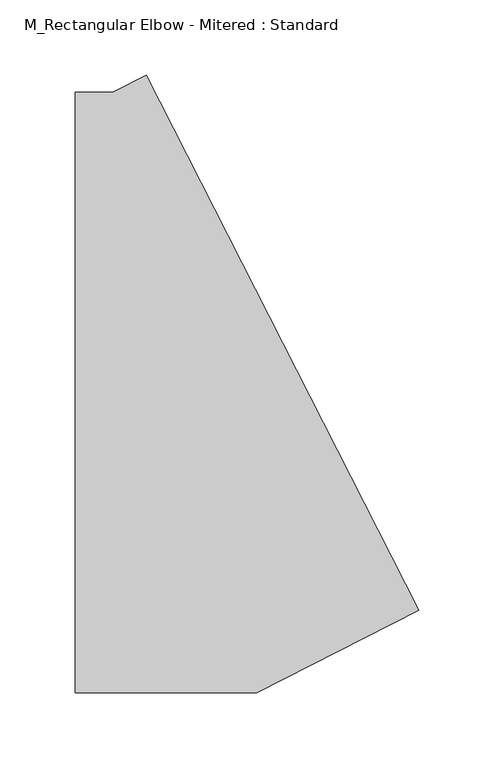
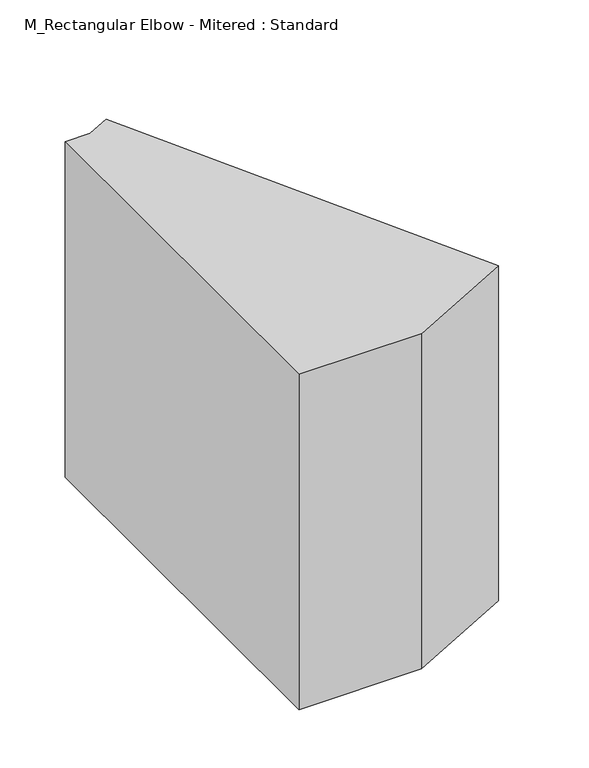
"""IFC4 building model written with IfcOpenShell, lengths in millimetres: duct fitting geometry, M_Rectangular Elbow - Mitered : Standard."""

from ifc_helpers import new_model, si_unit, frame, origin, place, context, project, spatial, polyline, outline, extrude, source, transform, mapped, element, save


def m_rectangular_elbow_mitered_standard_e0a73897(model_context):
    return source(origin(), model_context, "Body", "SweptSolid", [
        extrude(outline(polyline([(-73.0157518, -200.0), (-73.0157518, 200.0), (-48.0157518, 200.0), (-25.7405887, 211.3497625), (155.8556112, -145.0528472), (48.0157518, -200.0), (-73.0157518, -200.0)])), frame((0.0, 0.0, -175.0), z_axis=(0.0, 0.0, 1.0), x_axis=(1.0, 0.0, 0.0)), (0.0, 0.0, 1.0), 350.0),
        extrude(outline(polyline([(-73.0157518, -200.0), (-73.0157518, 200.0), (-48.0157518, 200.0), (-25.7405887, 211.3497625), (155.8556112, -145.0528472), (48.0157518, -200.0), (-73.0157518, -200.0)])), frame((0.0, 0.0, -175.0), z_axis=(0.0, 0.0, 1.0), x_axis=(1.0, 0.0, 0.0)), (0.0, 0.0, 1.0), 350.0),
        extrude(outline(polyline([(-73.0157518, -200.0), (-73.0157518, 200.0), (-48.0157518, 200.0), (-25.7405887, 211.3497625), (155.8556112, -145.0528472), (48.0157518, -200.0), (-73.0157518, -200.0)])), frame((0.0, 0.0, -175.0), z_axis=(0.0, 0.0, 1.0), x_axis=(1.0, 0.0, 0.0)), (0.0, 0.0, 1.0), 350.0),
    ])


if __name__ == "__main__":
    model = new_model("IFC4")
    model_context = context("Model", 3, world=origin())
    ifc_project = project(units=[si_unit("LENGTHUNIT", "METRE", prefix="MILLI")], contexts=[model_context])
    site = spatial("IfcSite", under=ifc_project)
    building = spatial("IfcBuilding", under=site)
    placement = place(None, origin())
    m_rectangular_elbow_mitered_standard_shape = m_rectangular_elbow_mitered_standard_e0a73897(model_context)
    element("IfcDuctFitting", 1, ObjectType="M_Rectangular Elbow - Mitered : Standard", at=placement, inside=building, context=model_context, shape_type="MappedRepresentation", body=[
        mapped(m_rectangular_elbow_mitered_standard_shape, transform((0.0, 0.0, 0.0), x_axis=(1.0, 0.0, 0.0), y_axis=(0.0, 1.0, 0.0), z_axis=(0.0, 0.0, 1.0))),
    ])
    save(model, "model.ifc")
